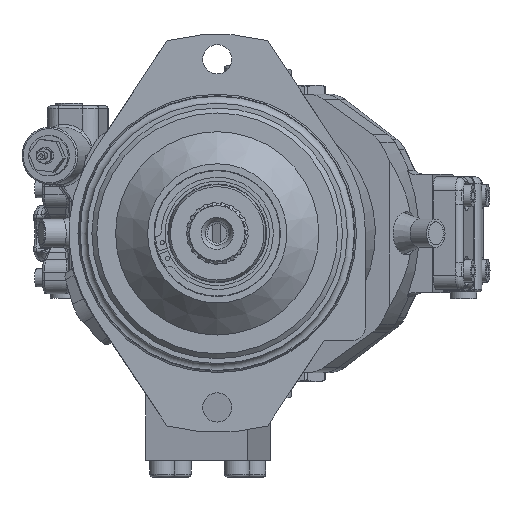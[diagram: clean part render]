
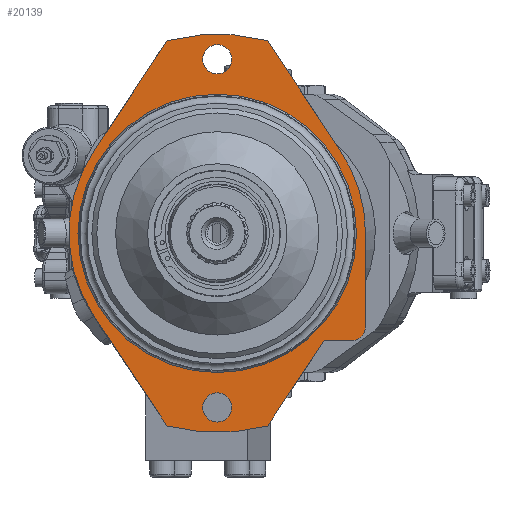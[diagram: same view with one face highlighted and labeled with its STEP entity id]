
A CAD part, left-side view. The second image highlights one B-rep face of the part: STEP entity #20139.
In plain terms, the highlighted planar face has unit normal (-1, 0, 0).
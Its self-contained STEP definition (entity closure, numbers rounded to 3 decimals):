
#386 = DIRECTION ( 'NONE',  ( -1., 0., 0. ) ) ;
#648 = DIRECTION ( 'NONE',  ( 1., 0., 0. ) ) ;
#1069 = CARTESIAN_POINT ( 'NONE',  ( -189.724, -53.396, 710.345 ) ) ;
#1534 = VERTEX_POINT ( 'NONE', #18860 ) ;
#1588 = DIRECTION ( 'NONE',  ( 0., 0., 1. ) ) ;
#1611 = EDGE_CURVE ( 'NONE', #1534, #1534, #48625, .T. ) ;
#2175 = FACE_OUTER_BOUND ( 'NONE', #30258, .T. ) ;
#2426 = CARTESIAN_POINT ( 'NONE',  ( -189.724, 7.104, 925.739 ) ) ;
#3201 = VERTEX_POINT ( 'NONE', #3453 ) ;
#3453 = CARTESIAN_POINT ( 'NONE',  ( -189.724, -45.646, 846.214 ) ) ;
#3782 = CARTESIAN_POINT ( 'NONE',  ( -189.724, -53.396, 720.345 ) ) ;
#4020 = VERTEX_POINT ( 'NONE', #36706 ) ;
#4164 = DIRECTION ( 'NONE',  ( 0., 0., 1. ) ) ;
#4899 = VERTEX_POINT ( 'NONE', #15557 ) ;
#4999 = CARTESIAN_POINT ( 'NONE',  ( -189.724, 43.104, 787.345 ) ) ;
#5092 = ORIENTED_EDGE ( 'NONE', *, *, #49736, .F. ) ;
#5267 = PLANE ( 'NONE',  #29258 ) ;
#5573 = VERTEX_POINT ( 'NONE', #10595 ) ;
#5869 = LINE ( 'NONE', #15660, #21768 ) ;
#6845 = DIRECTION ( 'NONE',  ( 0., -1., 0. ) ) ;
#8206 = DIRECTION ( 'NONE',  ( 0., 0., 1. ) ) ;
#8405 = EDGE_CURVE ( 'NONE', #27433, #9690, #5869, .T. ) ;
#8597 = ORIENTED_EDGE ( 'NONE', *, *, #9662, .F. ) ;
#8782 = AXIS2_PLACEMENT_3D ( 'NONE', #29703, #38043, #1588 ) ;
#9081 = DIRECTION ( 'NONE',  ( 0., 0., -1. ) ) ;
#9662 = EDGE_CURVE ( 'NONE', #28585, #28870, #11105, .T. ) ;
#9690 = VERTEX_POINT ( 'NONE', #41413 ) ;
#9776 = DIRECTION ( 'NONE',  ( 0., 0., -1. ) ) ;
#9803 = FACE_BOUND ( 'NONE', #15717, .T. ) ;
#9866 = CARTESIAN_POINT ( 'NONE',  ( -189.724, 43.104, 787.345 ) ) ;
#10186 = AXIS2_PLACEMENT_3D ( 'NONE', #32431, #28528, #4164 ) ;
#10509 = EDGE_CURVE ( 'NONE', #38777, #4899, #26128, .T. ) ;
#10595 = CARTESIAN_POINT ( 'NONE',  ( -189.724, 131.854, 728.475 ) ) ;
#10730 = AXIS2_PLACEMENT_3D ( 'NONE', #4999, #20814, #9081 ) ;
#10883 = CARTESIAN_POINT ( 'NONE',  ( -189.724, -63.396, 710.345 ) ) ;
#11105 = LINE ( 'NONE', #21380, #30176 ) ;
#12625 = DIRECTION ( 'NONE',  ( 0., 0., 1. ) ) ;
#12873 = VECTOR ( 'NONE', #28783, 1000. ) ;
#14709 = CARTESIAN_POINT ( 'NONE',  ( -189.724, 79.104, 925.739 ) ) ;
#14869 = ORIENTED_EDGE ( 'NONE', *, *, #29016, .T. ) ;
#15105 = EDGE_CURVE ( 'NONE', #26529, #5573, #28750, .T. ) ;
#15371 = VERTEX_POINT ( 'NONE', #32224 ) ;
#15557 = CARTESIAN_POINT ( 'NONE',  ( -189.724, 79.104, 925.739 ) ) ;
#15660 = CARTESIAN_POINT ( 'NONE',  ( -189.724, -63.396, 787.345 ) ) ;
#15717 = EDGE_LOOP ( 'NONE', ( #26177 ) ) ;
#16304 = AXIS2_PLACEMENT_3D ( 'NONE', #3782, #386, #24739 ) ;
#16460 = CARTESIAN_POINT ( 'NONE',  ( -189.724, 43.104, 787.345 ) ) ;
#16533 = AXIS2_PLACEMENT_3D ( 'NONE', #34130, #38041, #9776 ) ;
#18377 = EDGE_CURVE ( 'NONE', #34299, #34299, #49390, .T. ) ;
#18498 = CIRCLE ( 'NONE', #16304, 10. ) ;
#18860 = CARTESIAN_POINT ( 'NONE',  ( -189.724, 43.104, 887.345 ) ) ;
#19658 = ORIENTED_EDGE ( 'NONE', *, *, #8405, .T. ) ;
#19771 = DIRECTION ( 'NONE',  ( 0., 0., -1. ) ) ;
#20031 = FACE_BOUND ( 'NONE', #34971, .T. ) ;
#20139 = ADVANCED_FACE ( 'NONE', ( #9803, #20031, #43438, #2175 ), #5267, .T. ) ;
#20759 = ORIENTED_EDGE ( 'NONE', *, *, #1611, .T. ) ;
#20814 = DIRECTION ( 'NONE',  ( 1., 0., 0. ) ) ;
#20916 = ORIENTED_EDGE ( 'NONE', *, *, #46109, .F. ) ;
#20959 = VERTEX_POINT ( 'NONE', #1069 ) ;
#21380 = CARTESIAN_POINT ( 'NONE',  ( -189.724, 7.104, 648.95 ) ) ;
#21768 = VECTOR ( 'NONE', #43846, 1000. ) ;
#22685 = ORIENTED_EDGE ( 'NONE', *, *, #51181, .F. ) ;
#24006 = DIRECTION ( 'NONE',  ( -1., 0., 0. ) ) ;
#24023 = VECTOR ( 'NONE', #6845, 1000. ) ;
#24739 = DIRECTION ( 'NONE',  ( 0., 0., 1. ) ) ;
#25665 = ORIENTED_EDGE ( 'NONE', *, *, #42326, .F. ) ;
#26128 = LINE ( 'NONE', #14709, #26744 ) ;
#26177 = ORIENTED_EDGE ( 'NONE', *, *, #18377, .F. ) ;
#26529 = VERTEX_POINT ( 'NONE', #50855 ) ;
#26744 = VECTOR ( 'NONE', #51192, 1000. ) ;
#27023 = CARTESIAN_POINT ( 'NONE',  ( -189.724, -63.396, 720.345 ) ) ;
#27433 = VERTEX_POINT ( 'NONE', #27023 ) ;
#27652 = LINE ( 'NONE', #2426, #49778 ) ;
#28470 = CARTESIAN_POINT ( 'NONE',  ( -189.724, 43.104, 787.345 ) ) ;
#28528 = DIRECTION ( 'NONE',  ( 1., 0., 0. ) ) ;
#28585 = VERTEX_POINT ( 'NONE', #29096 ) ;
#28750 = LINE ( 'NONE', #36757, #12873 ) ;
#28783 = DIRECTION ( 'NONE',  ( 0., 0.553, 0.833 ) ) ;
#28870 = VERTEX_POINT ( 'NONE', #39883 ) ;
#29016 = EDGE_CURVE ( 'NONE', #20959, #27433, #18498, .T. ) ;
#29096 = CARTESIAN_POINT ( 'NONE',  ( -189.724, -33.62, 710.345 ) ) ;
#29258 = AXIS2_PLACEMENT_3D ( 'NONE', #9866, #46049, #49936 ) ;
#29703 = CARTESIAN_POINT ( 'NONE',  ( -189.724, 43.104, 662.345 ) ) ;
#29771 = LINE ( 'NONE', #10883, #24023 ) ;
#29920 = AXIS2_PLACEMENT_3D ( 'NONE', #16460, #648, #12625 ) ;
#29953 = ORIENTED_EDGE ( 'NONE', *, *, #10509, .F. ) ;
#30176 = VECTOR ( 'NONE', #45447, 1000. ) ;
#30258 = EDGE_LOOP ( 'NONE', ( #36768, #14869, #19658, #22685, #25665, #43586, #29953, #37231, #44920, #5092, #8597 ) ) ;
#31525 = AXIS2_PLACEMENT_3D ( 'NONE', #32561, #24006, #8206 ) ;
#32224 = CARTESIAN_POINT ( 'NONE',  ( -189.724, 7.104, 925.739 ) ) ;
#32431 = CARTESIAN_POINT ( 'NONE',  ( -189.724, 43.104, 787.345 ) ) ;
#32561 = CARTESIAN_POINT ( 'NONE',  ( -189.724, 43.104, 912.345 ) ) ;
#34130 = CARTESIAN_POINT ( 'NONE',  ( -189.724, 43.104, 787.345 ) ) ;
#34299 = VERTEX_POINT ( 'NONE', #41523 ) ;
#34580 = EDGE_CURVE ( 'NONE', #4899, #15371, #52609, .T. ) ;
#34733 = EDGE_CURVE ( 'NONE', #5573, #38777, #45959, .T. ) ;
#34971 = EDGE_LOOP ( 'NONE', ( #20916 ) ) ;
#36706 = CARTESIAN_POINT ( 'NONE',  ( -189.724, 43.104, 922.845 ) ) ;
#36757 = CARTESIAN_POINT ( 'NONE',  ( -189.724, 79.104, 648.95 ) ) ;
#36768 = ORIENTED_EDGE ( 'NONE', *, *, #50094, .T. ) ;
#37231 = ORIENTED_EDGE ( 'NONE', *, *, #34733, .F. ) ;
#38041 = DIRECTION ( 'NONE',  ( 1., 0., 0. ) ) ;
#38043 = DIRECTION ( 'NONE',  ( -1., 0., 0. ) ) ;
#38777 = VERTEX_POINT ( 'NONE', #45167 ) ;
#39191 = CIRCLE ( 'NONE', #43185, 106.5 ) ;
#39883 = CARTESIAN_POINT ( 'NONE',  ( -189.724, 7.104, 648.95 ) ) ;
#40691 = DIRECTION ( 'NONE',  ( 1., 0., 0. ) ) ;
#41413 = CARTESIAN_POINT ( 'NONE',  ( -189.724, -63.396, 787.345 ) ) ;
#41523 = CARTESIAN_POINT ( 'NONE',  ( -189.724, 43.104, 672.845 ) ) ;
#42326 = EDGE_CURVE ( 'NONE', #15371, #3201, #27652, .T. ) ;
#43185 = AXIS2_PLACEMENT_3D ( 'NONE', #28470, #40691, #19771 ) ;
#43438 = FACE_BOUND ( 'NONE', #46238, .T. ) ;
#43574 = CIRCLE ( 'NONE', #10186, 143. ) ;
#43586 = ORIENTED_EDGE ( 'NONE', *, *, #34580, .F. ) ;
#43846 = DIRECTION ( 'NONE',  ( 0., 0., 1. ) ) ;
#44920 = ORIENTED_EDGE ( 'NONE', *, *, #15105, .F. ) ;
#45167 = CARTESIAN_POINT ( 'NONE',  ( -189.724, 131.854, 846.214 ) ) ;
#45447 = DIRECTION ( 'NONE',  ( 0., 0.553, -0.833 ) ) ;
#45959 = CIRCLE ( 'NONE', #16533, 106.5 ) ;
#46049 = DIRECTION ( 'NONE',  ( -1., 0., 0. ) ) ;
#46109 = EDGE_CURVE ( 'NONE', #4020, #4020, #51361, .T. ) ;
#46238 = EDGE_LOOP ( 'NONE', ( #20759 ) ) ;
#48625 = CIRCLE ( 'NONE', #29920, 100. ) ;
#49390 = CIRCLE ( 'NONE', #8782, 10.5 ) ;
#49736 = EDGE_CURVE ( 'NONE', #28870, #26529, #43574, .T. ) ;
#49778 = VECTOR ( 'NONE', #52056, 1000. ) ;
#49936 = DIRECTION ( 'NONE',  ( 0., 0., 1. ) ) ;
#50094 = EDGE_CURVE ( 'NONE', #28585, #20959, #29771, .T. ) ;
#50855 = CARTESIAN_POINT ( 'NONE',  ( -189.724, 79.104, 648.95 ) ) ;
#51181 = EDGE_CURVE ( 'NONE', #3201, #9690, #39191, .T. ) ;
#51192 = DIRECTION ( 'NONE',  ( 0., -0.553, 0.833 ) ) ;
#51361 = CIRCLE ( 'NONE', #31525, 10.5 ) ;
#52056 = DIRECTION ( 'NONE',  ( 0., -0.553, -0.833 ) ) ;
#52609 = CIRCLE ( 'NONE', #10730, 143. ) ;
